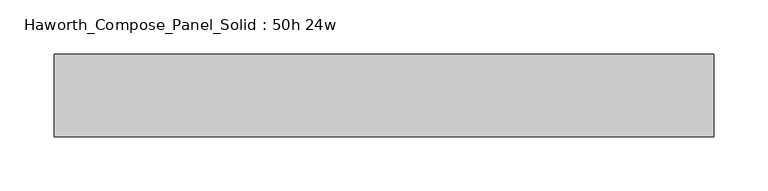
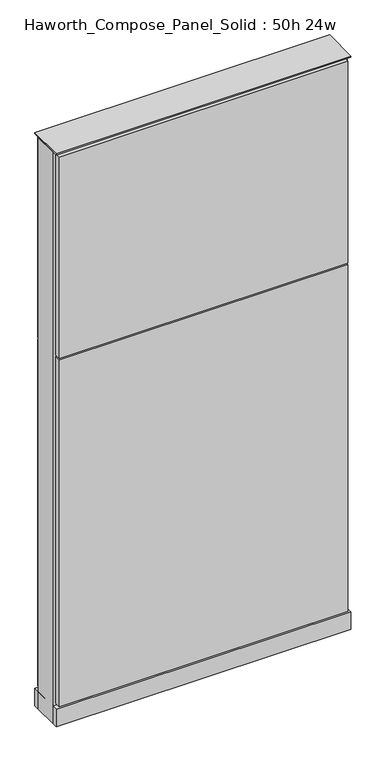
"""IFC4 building model written with IfcOpenShell, lengths in millimetres: furniture geometry, Haworth_Compose_Panel_Solid : 50h 24w."""

from ifc_helpers import new_model, si_unit, point, frame, frame_2d, origin, origin_with_axes, place, context, project, spatial, polyline, circle_curve, trimmed, segment, composite_curve, outline, extrude, source, transform, mapped, element, save


def haworth_compose_panel_solid_50h_24w_0ef88113(model_context):
    return source(origin(), model_context, "Body", "SweptSolid", [
        extrude(outline(composite_curve([segment(trimmed(circle_curve(frame_2d((-226.1597098, 0.0)), 12.7), [point((-238.8597098, 0.0))], [point((-213.4597098, 0.0))], False, "CARTESIAN"), True, "CONTINUOUS"), segment(trimmed(circle_curve(frame_2d((-226.1597098, 0.0)), 12.7), [point((-213.4597098, 0.0))], [point((-238.8597098, 0.0))], False, "CARTESIAN"), True, "CONTINUOUS")], self_intersect=False)), origin_with_axes(), (0.0, 0.0, 1.0), 12.7),
        extrude(outline(composite_curve([segment(trimmed(circle_curve(frame_2d((231.0402902, 0.0)), 12.7), [point((218.3402902, 0.0))], [point((243.7402902, 0.0))], False, "CARTESIAN"), True, "CONTINUOUS"), segment(trimmed(circle_curve(frame_2d((231.0402902, 0.0)), 12.7), [point((243.7402902, 0.0))], [point((218.3402902, 0.0))], False, "CARTESIAN"), True, "CONTINUOUS")], self_intersect=False)), origin_with_axes(), (0.0, 0.0, 1.0), 12.7),
        extrude(outline(polyline([(300.8902902, 38.1), (300.8902902, 25.4), (-296.0097098, 25.4), (-296.0097098, 38.1), (300.8902902, 38.1)])), frame((0.0, 0.0, 815.975), z_axis=(0.0, 0.0, 1.0), x_axis=(1.0, 0.0, 0.0)), (0.0, 0.0, 1.0), 441.325),
        extrude(outline(polyline([(300.8902902, 38.1), (300.8902902, 25.4), (-296.0097098, 25.4), (-296.0097098, 38.1), (300.8902902, 38.1)])), frame((0.0, 0.0, 53.975), z_axis=(0.0, 0.0, 1.0), x_axis=(1.0, 0.0, 0.0)), (0.0, 0.0, 1.0), 758.825),
        extrude(outline(polyline([(300.8902902, -38.1), (-296.0097098, -38.1), (-296.0097098, -25.4), (300.8902902, -25.4), (300.8902902, -38.1)])), frame((0.0, 0.0, 815.975), z_axis=(0.0, 0.0, 1.0), x_axis=(1.0, 0.0, 0.0)), (0.0, 0.0, 1.0), 441.325),
        extrude(outline(polyline([(300.8902902, -38.1), (-296.0097098, -38.1), (-296.0097098, -25.4), (300.8902902, -25.4), (300.8902902, -38.1)])), frame((0.0, 0.0, 53.975), z_axis=(0.0, 0.0, 1.0), x_axis=(1.0, 0.0, 0.0)), (0.0, 0.0, 1.0), 758.825),
        extrude(outline(polyline([(307.2402902, 25.4), (307.2402902, -25.4), (-302.3597098, -25.4), (-302.3597098, 25.4), (307.2402902, 25.4)])), frame((0.0, 0.0, 12.7), z_axis=(0.0, 0.0, 1.0), x_axis=(1.0, 0.0, 0.0)), (0.0, 0.0, 1.0), 1250.95),
        extrude(outline(polyline([(-302.3597098, -38.1), (-302.3597098, 38.1), (307.2402902, 38.1), (307.2402902, -38.1), (-302.3597098, -38.1)])), frame((0.0, 0.0, 12.7), z_axis=(0.0, 0.0, 1.0), x_axis=(1.0, 0.0, 0.0)), (0.0, 0.0, 1.0), 38.1),
        extrude(outline(polyline([(-302.3597098, -38.1), (-302.3597098, 38.1), (307.2402902, 38.1), (307.2402902, -38.1), (-302.3597098, -38.1)])), frame((0.0, 0.0, 1263.65), z_axis=(0.0, 0.0, 1.0), x_axis=(1.0, 0.0, 0.0)), (0.0, 0.0, 1.0), 3.175),
    ])


if __name__ == "__main__":
    model = new_model("IFC4")
    model_context = context("Model", 3, world=origin())
    ifc_project = project(units=[si_unit("LENGTHUNIT", "METRE", prefix="MILLI")], contexts=[model_context])
    site = spatial("IfcSite", under=ifc_project)
    building = spatial("IfcBuilding", under=site)
    placement = place(None, origin())
    haworth_compose_panel_solid_50h_24w_shape = haworth_compose_panel_solid_50h_24w_0ef88113(model_context)
    element("IfcFurniture", 1, ObjectType="Haworth_Compose_Panel_Solid : 50h 24w", at=placement, inside=building, context=model_context, shape_type="MappedRepresentation", body=[
        mapped(haworth_compose_panel_solid_50h_24w_shape, transform((0.0, 0.0, 0.0), x_axis=(1.0, 0.0, 0.0), y_axis=(0.0, 1.0, 0.0), z_axis=(0.0, 0.0, 1.0))),
    ])
    save(model, "model.ifc")
